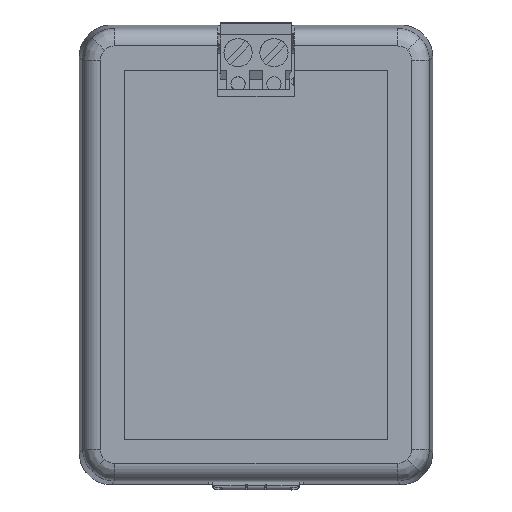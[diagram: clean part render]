
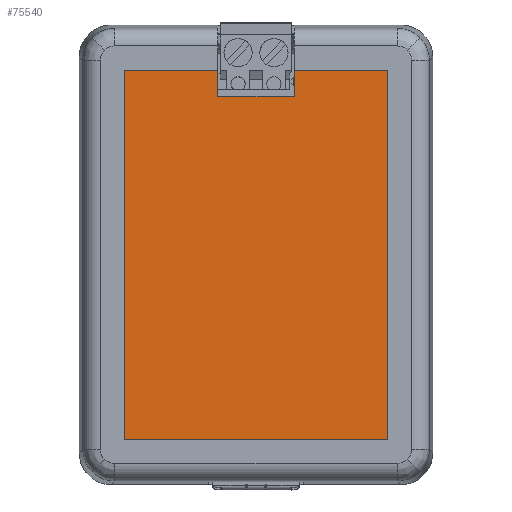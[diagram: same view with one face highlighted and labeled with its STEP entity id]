
A CAD part, top view. The second image highlights one B-rep face of the part: STEP entity #75540.
In plain terms, the highlighted planar face has unit normal (0, 0, 1).
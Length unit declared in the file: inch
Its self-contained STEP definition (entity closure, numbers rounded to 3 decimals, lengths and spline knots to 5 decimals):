
#577 = CARTESIAN_POINT ( 'NONE',  ( 0.25197, 0.25197, 0.96457 ) ) ;
#796 = FACE_OUTER_BOUND ( 'NONE', #24975, .T. ) ;
#1264 = LINE ( 'NONE', #26539, #46028 ) ;
#2507 = VERTEX_POINT ( 'NONE', #12756 ) ;
#6969 = DIRECTION ( 'NONE',  ( 0., -1., 0. ) ) ;
#7684 = VECTOR ( 'NONE', #14815, 39.37008 ) ;
#8929 = CARTESIAN_POINT ( 'NONE',  ( 0.77125, 2.30709, 0.96457 ) ) ;
#9596 = CARTESIAN_POINT ( 'NONE',  ( 1.71654, 2.30709, 0.96457 ) ) ;
#10059 = CARTESIAN_POINT ( 'NONE',  ( 0.25197, 2.30709, 0.96457 ) ) ;
#12658 = LINE ( 'NONE', #42026, #41952 ) ;
#12756 = CARTESIAN_POINT ( 'NONE',  ( 0.77125, 2.15779, 0.96457 ) ) ;
#13080 = CARTESIAN_POINT ( 'NONE',  ( 1.71654, 0.25197, 0.96457 ) ) ;
#14815 = DIRECTION ( 'NONE',  ( 0., -1., 0. ) ) ;
#14932 = VECTOR ( 'NONE', #74557, 39.37008 ) ;
#15146 = VECTOR ( 'NONE', #38659, 39.37008 ) ;
#15861 = CARTESIAN_POINT ( 'NONE',  ( 1.19725, 2.15779, 0.96457 ) ) ;
#15896 = DIRECTION ( 'NONE',  ( 0., 0., 1. ) ) ;
#16198 = CARTESIAN_POINT ( 'NONE',  ( 0.25197, 2.15779, 0.96457 ) ) ;
#17701 = ORIENTED_EDGE ( 'NONE', *, *, #75757, .T. ) ;
#17876 = DIRECTION ( 'NONE',  ( 1., 0., 0. ) ) ;
#18734 = ORIENTED_EDGE ( 'NONE', *, *, #37567, .T. ) ;
#21436 = VERTEX_POINT ( 'NONE', #36085 ) ;
#23654 = VECTOR ( 'NONE', #56115, 39.37008 ) ;
#23833 = VERTEX_POINT ( 'NONE', #15861 ) ;
#24975 = EDGE_LOOP ( 'NONE', ( #48231, #69208, #18734, #17701, #64857, #72034, #47974, #28746 ) ) ;
#26539 = CARTESIAN_POINT ( 'NONE',  ( 1.19725, 2.30709, 0.96457 ) ) ;
#27127 = VERTEX_POINT ( 'NONE', #53743 ) ;
#27461 = PLANE ( 'NONE',  #45629 ) ;
#28746 = ORIENTED_EDGE ( 'NONE', *, *, #31141, .T. ) ;
#29816 = EDGE_CURVE ( 'NONE', #27127, #62420, #30726, .T. ) ;
#30726 = LINE ( 'NONE', #61854, #15146 ) ;
#30925 = VECTOR ( 'NONE', #17876, 39.37008 ) ;
#31141 = EDGE_CURVE ( 'NONE', #23833, #2507, #75315, .T. ) ;
#32386 = DIRECTION ( 'NONE',  ( 0., -1., 0. ) ) ;
#32437 = CARTESIAN_POINT ( 'NONE',  ( 1.71654, 0.25197, 0.96457 ) ) ;
#35110 = LINE ( 'NONE', #8929, #7684 ) ;
#36085 = CARTESIAN_POINT ( 'NONE',  ( 0.77125, 2.30709, 0.96457 ) ) ;
#37567 = EDGE_CURVE ( 'NONE', #74935, #48166, #12658, .T. ) ;
#38332 = DIRECTION ( 'NONE',  ( 0., 1., 0. ) ) ;
#38659 = DIRECTION ( 'NONE',  ( -1., 0., 0. ) ) ;
#39256 = LINE ( 'NONE', #9596, #23654 ) ;
#41952 = VECTOR ( 'NONE', #6969, 39.37008 ) ;
#42026 = CARTESIAN_POINT ( 'NONE',  ( 0.25197, 2.30709, 0.96457 ) ) ;
#43133 = CARTESIAN_POINT ( 'NONE',  ( 1.19725, 2.30709, 0.96457 ) ) ;
#45629 = AXIS2_PLACEMENT_3D ( 'NONE', #10059, #15896, #56800 ) ;
#46028 = VECTOR ( 'NONE', #32386, 39.37008 ) ;
#47974 = ORIENTED_EDGE ( 'NONE', *, *, #66331, .T. ) ;
#48166 = VERTEX_POINT ( 'NONE', #61743 ) ;
#48231 = ORIENTED_EDGE ( 'NONE', *, *, #63457, .F. ) ;
#53295 = VERTEX_POINT ( 'NONE', #13080 ) ;
#53743 = CARTESIAN_POINT ( 'NONE',  ( 1.71654, 2.30709, 0.96457 ) ) ;
#56115 = DIRECTION ( 'NONE',  ( -1., 0., 0. ) ) ;
#56800 = DIRECTION ( 'NONE',  ( 1., 0., 0. ) ) ;
#58315 = LINE ( 'NONE', #577, #30925 ) ;
#59696 = CARTESIAN_POINT ( 'NONE',  ( 0.25197, 2.30709, 0.96457 ) ) ;
#61743 = CARTESIAN_POINT ( 'NONE',  ( 0.25197, 0.25197, 0.96457 ) ) ;
#61854 = CARTESIAN_POINT ( 'NONE',  ( 1.71654, 2.30709, 0.96457 ) ) ;
#62420 = VERTEX_POINT ( 'NONE', #43133 ) ;
#63457 = EDGE_CURVE ( 'NONE', #21436, #2507, #35110, .T. ) ;
#64857 = ORIENTED_EDGE ( 'NONE', *, *, #72806, .T. ) ;
#66331 = EDGE_CURVE ( 'NONE', #62420, #23833, #1264, .T. ) ;
#68781 = VECTOR ( 'NONE', #38332, 39.37008 ) ;
#68870 = EDGE_CURVE ( 'NONE', #21436, #74935, #39256, .T. ) ;
#69208 = ORIENTED_EDGE ( 'NONE', *, *, #68870, .T. ) ;
#70611 = LINE ( 'NONE', #32437, #68781 ) ;
#72034 = ORIENTED_EDGE ( 'NONE', *, *, #29816, .T. ) ;
#72806 = EDGE_CURVE ( 'NONE', #53295, #27127, #70611, .T. ) ;
#74557 = DIRECTION ( 'NONE',  ( -1., 0., 0. ) ) ;
#74935 = VERTEX_POINT ( 'NONE', #59696 ) ;
#75315 = LINE ( 'NONE', #16198, #14932 ) ;
#75540 = ADVANCED_FACE ( 'NONE', ( #796 ), #27461, .T. ) ;
#75757 = EDGE_CURVE ( 'NONE', #48166, #53295, #58315, .T. ) ;
